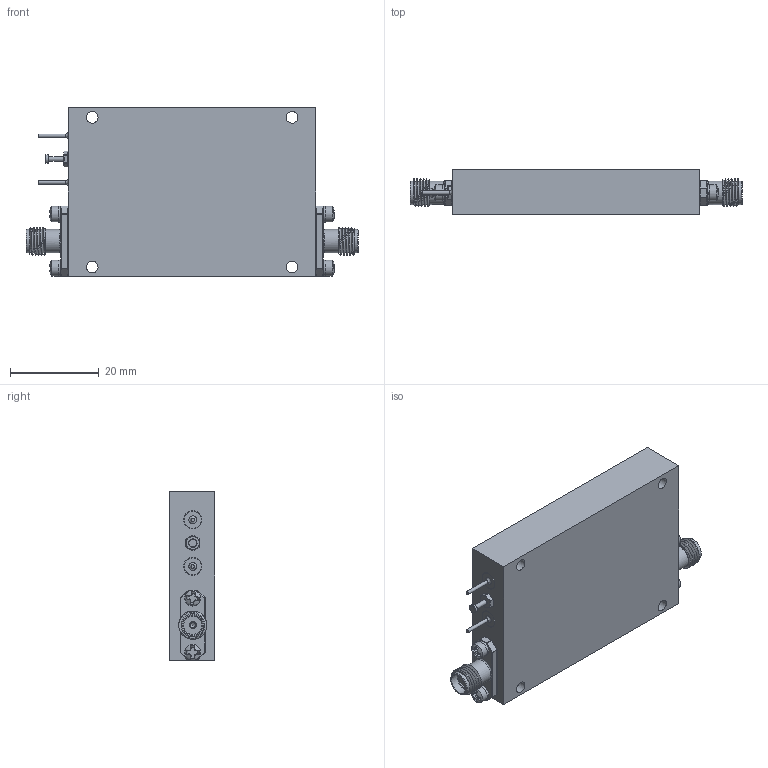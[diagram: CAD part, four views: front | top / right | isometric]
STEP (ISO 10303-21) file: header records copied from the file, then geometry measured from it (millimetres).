
FILE_DESCRIPTION (( 'STEP AP214' ), '1' );
FILE_NAME ('PLVA-218-50-618.STEP', '2026-08-20T15:47:00', ( '' ), ( '' ), 'SwSTEP 2.0', 'SolidWorks 2025', '' );
FILE_SCHEMA (( 'AUTOMOTIVE_DESIGN' ));
Length unit declared in the file: inch
Products named in the file (1): PLVA-218-50-618
Bounding box: 74.93 x 10.21 x 38.1 mm (x, y, z)
Volume: 22251.7 mm3; surface area: 12002.1 mm2
Topology: 20 solids, 20 shells, 631 faces, 2238 edges, 1789 vertices
Faces by surface type: plane 340, cylinder 132, sphere 60, torus 50, cone 29, bspline 20
Full cylindrical faces by diameter (mm): 0.254 x2, 0.762 x4, 1.067 x1, 1.245 x2, 1.27 x7, 1.499 x2, 1.93 x1, 2.159 x2, 2.184 x5, 2.591 x4, 2.642 x4, 3.251 x2, 3.556 x4, 3.962 x2, 4.064 x2, 4.191 x2, 4.597 x2, 5.283 x4
Entity records: 37795 total; most frequent: CARTESIAN_POINT 10586, ORIENTED_EDGE 4164, DIRECTION 3493, EDGE_CURVE 2082, VERTEX_POINT 1776, AXIS2_PLACEMENT_3D 1188, LINE 1117, VECTOR 1117
